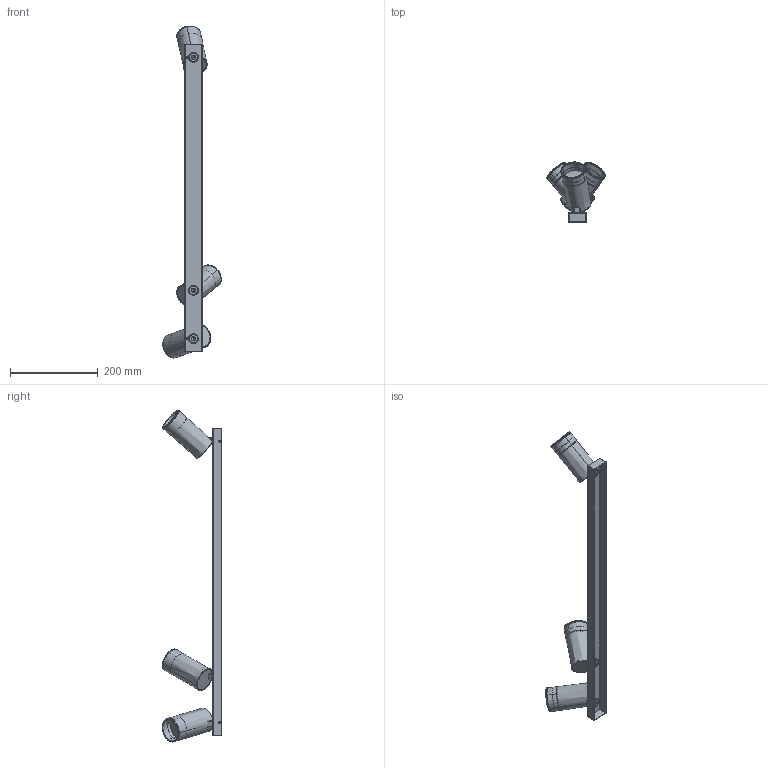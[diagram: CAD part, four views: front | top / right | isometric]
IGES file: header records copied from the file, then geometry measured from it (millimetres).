
Start section: SolidWorks IGES file using analytic representation for surfaces
Global section: file name: Z:\Modele 3D_WWW\_KOLEKCJE_WWW\MONO\MONO-BELKA\MONO-III-GOLD-7767-7775\MONO-III-GOLD-7767-7775.IGS; native system: SolidWorks 2021; preprocessor: SolidWorks 2021; author: gabriela.tworek; date: 210722.135002; units: millimetre
Bounding box: 132.96 x 135.44 x 754.99 mm (x, y, z)
Surface area: 287752.1 mm2 (no closed solid volume)
Topology: 0 solids, 0 shells, 719 faces, 11068 edges, 11064 vertices
Faces by surface type: revolution 448, bspline 271
